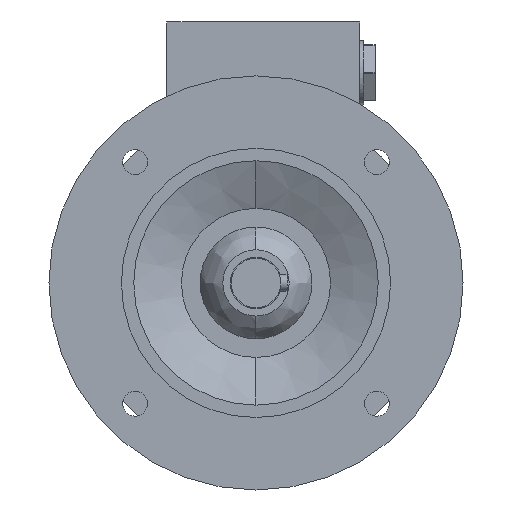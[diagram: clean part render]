
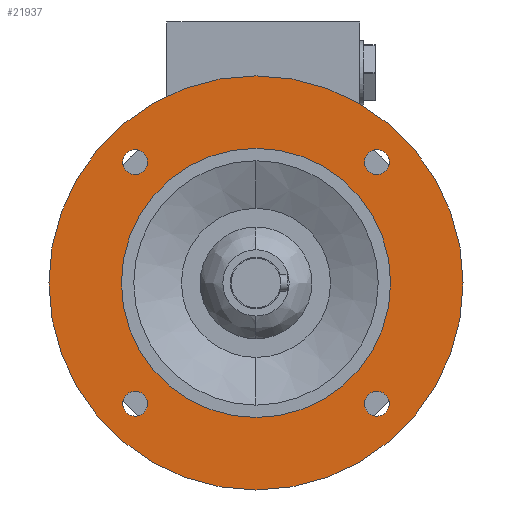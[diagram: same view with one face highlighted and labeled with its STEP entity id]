
A CAD part, left-side view. The second image highlights one B-rep face of the part: STEP entity #21937.
In plain terms, the highlighted planar face has unit normal (-1, 0, 0).
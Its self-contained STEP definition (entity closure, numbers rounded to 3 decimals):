
#1803 = CARTESIAN_POINT ( 'NONE',  ( -34.5, 0., 0. ) ) ;
#1804 = DIRECTION ( 'NONE',  ( 1., 0., 0. ) ) ;
#1805 = DIRECTION ( 'NONE',  ( 0., 0., 1. ) ) ;
#1913 = EDGE_LOOP ( 'NONE', ( #3172, #3171 ) ) ;
#1914 = EDGE_LOOP ( 'NONE', ( #3170, #1989 ) ) ;
#1981 = ORIENTED_EDGE ( 'NONE', *, *, #18278, .T. ) ;
#1982 = ORIENTED_EDGE ( 'NONE', *, *, #22083, .T. ) ;
#1983 = ORIENTED_EDGE ( 'NONE', *, *, #18274, .T. ) ;
#1984 = ORIENTED_EDGE ( 'NONE', *, *, #22082, .T. ) ;
#1985 = ORIENTED_EDGE ( 'NONE', *, *, #18270, .T. ) ;
#1986 = ORIENTED_EDGE ( 'NONE', *, *, #22081, .T. ) ;
#1987 = ORIENTED_EDGE ( 'NONE', *, *, #18266, .T. ) ;
#1988 = ORIENTED_EDGE ( 'NONE', *, *, #22080, .T. ) ;
#1989 = ORIENTED_EDGE ( 'NONE', *, *, #22066, .F. ) ;
#2117 = CIRCLE ( 'NONE', #21580, 65. ) ;
#2318 = CIRCLE ( 'NONE', #21604, 6. ) ;
#2339 = CIRCLE ( 'NONE', #21606, 6. ) ;
#2349 = CIRCLE ( 'NONE', #21608, 6. ) ;
#2356 = CIRCLE ( 'NONE', #21610, 6. ) ;
#3170 = ORIENTED_EDGE ( 'NONE', *, *, #22079, .F. ) ;
#3171 = ORIENTED_EDGE ( 'NONE', *, *, #17312, .T. ) ;
#3172 = ORIENTED_EDGE ( 'NONE', *, *, #22074, .T. ) ;
#4112 = AXIS2_PLACEMENT_3D ( 'NONE', #4311, #4312, #4313 ) ;
#4113 = AXIS2_PLACEMENT_3D ( 'NONE', #4327, #4328, #4329 ) ;
#4114 = AXIS2_PLACEMENT_3D ( 'NONE', #4335, #4336, #4337 ) ;
#4115 = AXIS2_PLACEMENT_3D ( 'NONE', #4338, #4339, #4340 ) ;
#4116 = AXIS2_PLACEMENT_3D ( 'NONE', #4341, #4342, #4343 ) ;
#4117 = AXIS2_PLACEMENT_3D ( 'NONE', #4346, #4347, #4348 ) ;
#4118 = AXIS2_PLACEMENT_3D ( 'NONE', #4351, #4352, #4353 ) ;
#4311 = CARTESIAN_POINT ( 'NONE',  ( -34.5, 0., 0. ) ) ;
#4312 = DIRECTION ( 'NONE',  ( 1., 0., 0. ) ) ;
#4313 = DIRECTION ( 'NONE',  ( 0., 0., 1. ) ) ;
#4327 = CARTESIAN_POINT ( 'NONE',  ( -34.5, 0., 0. ) ) ;
#4328 = DIRECTION ( 'NONE',  ( 1., 0., 0. ) ) ;
#4329 = DIRECTION ( 'NONE',  ( 0., 0., 1. ) ) ;
#4335 = CARTESIAN_POINT ( 'NONE',  ( -34.5, 0., 0. ) ) ;
#4336 = DIRECTION ( 'NONE',  ( 1., 0., 0. ) ) ;
#4337 = DIRECTION ( 'NONE',  ( 0., 0., 1. ) ) ;
#4338 = CARTESIAN_POINT ( 'NONE',  ( -34.5, -58.336, 58.336 ) ) ;
#4339 = DIRECTION ( 'NONE',  ( 1., 0., 0. ) ) ;
#4340 = DIRECTION ( 'NONE',  ( 0., 0., -1. ) ) ;
#4341 = CARTESIAN_POINT ( 'NONE',  ( -34.5, 58.336, 58.336 ) ) ;
#4342 = DIRECTION ( 'NONE',  ( 1., 0., 0. ) ) ;
#4343 = DIRECTION ( 'NONE',  ( 0., 0., -1. ) ) ;
#4346 = CARTESIAN_POINT ( 'NONE',  ( -34.5, 58.336, -58.336 ) ) ;
#4347 = DIRECTION ( 'NONE',  ( 1., 0., 0. ) ) ;
#4348 = DIRECTION ( 'NONE',  ( 0., 0., -1. ) ) ;
#4351 = CARTESIAN_POINT ( 'NONE',  ( -34.5, -58.336, -58.336 ) ) ;
#4352 = DIRECTION ( 'NONE',  ( 1., 0., 0. ) ) ;
#4353 = DIRECTION ( 'NONE',  ( 0., 0., -1. ) ) ;
#5945 = EDGE_LOOP ( 'NONE', ( #1984, #1983 ) ) ;
#5946 = EDGE_LOOP ( 'NONE', ( #1988, #1987 ) ) ;
#5947 = EDGE_LOOP ( 'NONE', ( #1986, #1985 ) ) ;
#5948 = EDGE_LOOP ( 'NONE', ( #1982, #1981 ) ) ;
#6327 = CARTESIAN_POINT ( 'NONE',  ( -34.5, -58.336, 58.336 ) ) ;
#6328 = DIRECTION ( 'NONE',  ( 1., 0., 0. ) ) ;
#6329 = DIRECTION ( 'NONE',  ( 0., 0., -1. ) ) ;
#6337 = CARTESIAN_POINT ( 'NONE',  ( -34.5, 58.336, 58.336 ) ) ;
#6338 = DIRECTION ( 'NONE',  ( 1., 0., 0. ) ) ;
#6339 = DIRECTION ( 'NONE',  ( 0., 0., -1. ) ) ;
#6347 = CARTESIAN_POINT ( 'NONE',  ( -34.5, 58.336, -58.336 ) ) ;
#6348 = DIRECTION ( 'NONE',  ( 1., 0., 0. ) ) ;
#6349 = DIRECTION ( 'NONE',  ( 0., 0., -1. ) ) ;
#6357 = CARTESIAN_POINT ( 'NONE',  ( -34.5, -58.336, -58.336 ) ) ;
#6358 = DIRECTION ( 'NONE',  ( 1., 0., 0. ) ) ;
#6359 = DIRECTION ( 'NONE',  ( 0., 0., -1. ) ) ;
#6729 = CARTESIAN_POINT ( 'NONE',  ( -34.5, -58.336, 52.336 ) ) ;
#6730 = CARTESIAN_POINT ( 'NONE',  ( -34.5, 0., -100. ) ) ;
#6731 = CARTESIAN_POINT ( 'NONE',  ( -34.5, 0., 100. ) ) ;
#6732 = CARTESIAN_POINT ( 'NONE',  ( -34.5, 58.336, 64.336 ) ) ;
#6735 = CARTESIAN_POINT ( 'NONE',  ( -34.5, 58.336, 52.336 ) ) ;
#6736 = CARTESIAN_POINT ( 'NONE',  ( -34.5, 58.336, -52.336 ) ) ;
#6739 = CARTESIAN_POINT ( 'NONE',  ( -34.5, 58.336, -64.336 ) ) ;
#6740 = CARTESIAN_POINT ( 'NONE',  ( -34.5, -58.336, -52.336 ) ) ;
#7239 = FACE_BOUND ( 'NONE', #5945, .T. ) ;
#7275 = FACE_BOUND ( 'NONE', #1913, .T. ) ;
#7276 = FACE_BOUND ( 'NONE', #5946, .T. ) ;
#7279 = FACE_BOUND ( 'NONE', #5947, .T. ) ;
#7280 = FACE_OUTER_BOUND ( 'NONE', #1914, .T. ) ;
#7281 = FACE_BOUND ( 'NONE', #5948, .T. ) ;
#7426 = CIRCLE ( 'NONE', #4112, 100. ) ;
#7448 = CIRCLE ( 'NONE', #4113, 65. ) ;
#7457 = CIRCLE ( 'NONE', #4114, 100. ) ;
#7459 = CIRCLE ( 'NONE', #4115, 6. ) ;
#7460 = CIRCLE ( 'NONE', #4116, 6. ) ;
#7461 = CIRCLE ( 'NONE', #4117, 6. ) ;
#7462 = CIRCLE ( 'NONE', #4118, 6. ) ;
#8222 = PLANE ( 'NONE',  #21755 ) ;
#8224 = DIRECTION ( 'NONE',  ( -1., 0., 0. ) ) ;
#8228 = CARTESIAN_POINT ( 'NONE',  ( -34.5, 82.5, 0. ) ) ;
#8229 = DIRECTION ( 'NONE',  ( 0., 0., 1. ) ) ;
#9953 = VERTEX_POINT ( 'NONE', #21394 ) ;
#9954 = VERTEX_POINT ( 'NONE', #21389 ) ;
#9957 = VERTEX_POINT ( 'NONE', #21396 ) ;
#12346 = CARTESIAN_POINT ( 'NONE',  ( -34.5, -58.336, 64.336 ) ) ;
#17312 = EDGE_CURVE ( 'NONE', #9954, #9957, #2117, .T. ) ;
#17660 = VERTEX_POINT ( 'NONE', #12346 ) ;
#18266 = EDGE_CURVE ( 'NONE', #17660, #18791, #2318, .T. ) ;
#18270 = EDGE_CURVE ( 'NONE', #18794, #18797, #2339, .T. ) ;
#18274 = EDGE_CURVE ( 'NONE', #18798, #18801, #2349, .T. ) ;
#18278 = EDGE_CURVE ( 'NONE', #18802, #9953, #2356, .T. ) ;
#18791 = VERTEX_POINT ( 'NONE', #6729 ) ;
#18792 = VERTEX_POINT ( 'NONE', #6730 ) ;
#18793 = VERTEX_POINT ( 'NONE', #6731 ) ;
#18794 = VERTEX_POINT ( 'NONE', #6732 ) ;
#18797 = VERTEX_POINT ( 'NONE', #6735 ) ;
#18798 = VERTEX_POINT ( 'NONE', #6736 ) ;
#18801 = VERTEX_POINT ( 'NONE', #6739 ) ;
#18802 = VERTEX_POINT ( 'NONE', #6740 ) ;
#21389 = CARTESIAN_POINT ( 'NONE',  ( -34.5, 0., -65. ) ) ;
#21394 = CARTESIAN_POINT ( 'NONE',  ( -34.5, -58.336, -64.336 ) ) ;
#21396 = CARTESIAN_POINT ( 'NONE',  ( -34.5, 0., 65. ) ) ;
#21580 = AXIS2_PLACEMENT_3D ( 'NONE', #1803, #1804, #1805 ) ;
#21604 = AXIS2_PLACEMENT_3D ( 'NONE', #6327, #6328, #6329 ) ;
#21606 = AXIS2_PLACEMENT_3D ( 'NONE', #6337, #6338, #6339 ) ;
#21608 = AXIS2_PLACEMENT_3D ( 'NONE', #6347, #6348, #6349 ) ;
#21610 = AXIS2_PLACEMENT_3D ( 'NONE', #6357, #6358, #6359 ) ;
#21755 = AXIS2_PLACEMENT_3D ( 'NONE', #8228, #8224, #8229 ) ;
#21937 = ADVANCED_FACE ( 'NONE', ( #7275, #7280, #7276, #7279, #7239, #7281 ), #8222, .T. ) ;
#22066 = EDGE_CURVE ( 'NONE', #18792, #18793, #7426, .T. ) ;
#22074 = EDGE_CURVE ( 'NONE', #9957, #9954, #7448, .T. ) ;
#22079 = EDGE_CURVE ( 'NONE', #18793, #18792, #7457, .T. ) ;
#22080 = EDGE_CURVE ( 'NONE', #18791, #17660, #7459, .T. ) ;
#22081 = EDGE_CURVE ( 'NONE', #18797, #18794, #7460, .T. ) ;
#22082 = EDGE_CURVE ( 'NONE', #18801, #18798, #7461, .T. ) ;
#22083 = EDGE_CURVE ( 'NONE', #9953, #18802, #7462, .T. ) ;
